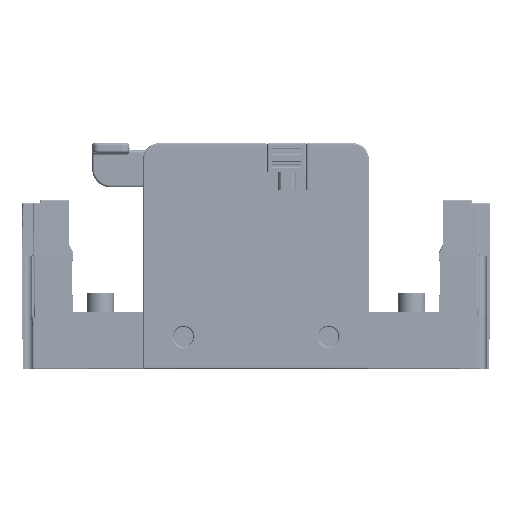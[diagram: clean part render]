
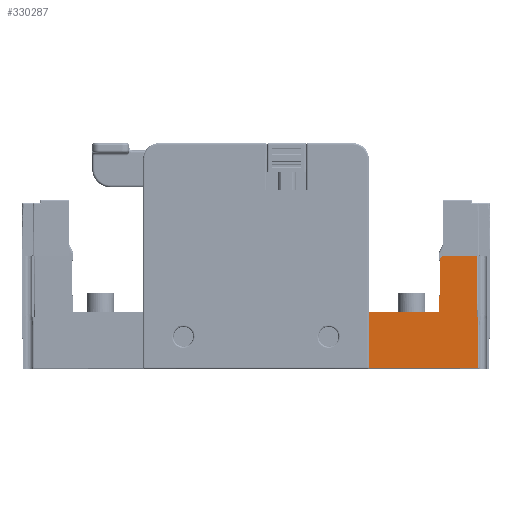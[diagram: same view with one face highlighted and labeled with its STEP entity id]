
A CAD part, left-side view. The second image highlights one B-rep face of the part: STEP entity #330287.
In plain terms, the highlighted planar face has unit normal (-1, 0, -0.009).
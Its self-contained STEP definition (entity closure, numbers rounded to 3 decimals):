
#1474 = CARTESIAN_POINT ( 'NONE',  ( -174.868, -103.471, -18.054 ) ) ;
#1475 = CARTESIAN_POINT ( 'NONE',  ( -174.868, -118.312, -18.054 ) ) ;
#1485 = CARTESIAN_POINT ( 'NONE',  ( -174.868, -88.63, -18.054 ) ) ;
#1487 = CARTESIAN_POINT ( 'NONE',  ( -174.868, -73.788, -18.054 ) ) ;
#1563 = LINE ( 'NONE', #1587, #208128 ) ;
#1575 = CARTESIAN_POINT ( 'NONE',  ( -174.569, -74.741, -52.406 ) ) ;
#1583 = CARTESIAN_POINT ( 'NONE',  ( -174.567, -74.652, -52.558 ) ) ;
#1587 = CARTESIAN_POINT ( 'NONE',  ( -175.174, -74.788, 16.946 ) ) ;
#1591 = DIRECTION ( 'NONE',  ( 0.009, 0., -1. ) ) ;
#1596 = CARTESIAN_POINT ( 'NONE',  ( -174.842, -142.552, -21.054 ) ) ;
#1598 = CARTESIAN_POINT ( 'NONE',  ( -174.57, -74.788, -52.23 ) ) ;
#1600 = CARTESIAN_POINT ( 'NONE',  ( -174.572, -74.788, -52.054 ) ) ;
#1602 = LINE ( 'NONE', #1605, #208130 ) ;
#1605 = CARTESIAN_POINT ( 'NONE',  ( -174.567, -145.788, -52.558 ) ) ;
#1607 = DIRECTION ( 'NONE',  ( 0., 1., 0. ) ) ;
#1612 = LINE ( 'NONE', #1620, #208129 ) ;
#1614 = CARTESIAN_POINT ( 'NONE',  ( -174.751, -142.49, -31.555 ) ) ;
#1616 = CARTESIAN_POINT ( 'NONE',  ( -174.659, -142.431, -42.057 ) ) ;
#1618 = CARTESIAN_POINT ( 'NONE',  ( -174.567, -142.372, -52.558 ) ) ;
#1620 = CARTESIAN_POINT ( 'NONE',  ( -175.174, -145.788, 16.946 ) ) ;
#1624 = DIRECTION ( 'NONE',  ( 0., 1., 0. ) ) ;
#7125 = VECTOR ( 'NONE', #83712, 1000. ) ;
#21188 = CARTESIAN_POINT ( 'NONE',  ( -174.859, -74.788, -19.124 ) ) ;
#21261 = CARTESIAN_POINT ( 'NONE',  ( -174.859, -74.788, -19.122 ) ) ;
#22031 = VERTEX_POINT ( 'NONE', #62101 ) ;
#22112 = VERTEX_POINT ( 'NONE', #62196 ) ;
#22149 = VERTEX_POINT ( 'NONE', #62248 ) ;
#22539 = VERTEX_POINT ( 'NONE', #62694 ) ;
#22542 = VERTEX_POINT ( 'NONE', #62696 ) ;
#22550 = VERTEX_POINT ( 'NONE', #62705 ) ;
#22552 = VERTEX_POINT ( 'NONE', #62708 ) ;
#26384 = VERTEX_POINT ( 'NONE', #212276 ) ;
#26385 = VERTEX_POINT ( 'NONE', #212281 ) ;
#26386 = VERTEX_POINT ( 'NONE', #212288 ) ;
#40977 = ORIENTED_EDGE ( 'NONE', *, *, #93485, .T. ) ;
#40982 = ORIENTED_EDGE ( 'NONE', *, *, #93558, .T. ) ;
#40988 = ORIENTED_EDGE ( 'NONE', *, *, #95155, .T. ) ;
#40994 = ORIENTED_EDGE ( 'NONE', *, *, #325299, .T. ) ;
#41000 = ORIENTED_EDGE ( 'NONE', *, *, #353559, .T. ) ;
#41006 = ORIENTED_EDGE ( 'NONE', *, *, #95211, .T. ) ;
#41009 = ORIENTED_EDGE ( 'NONE', *, *, #95216, .F. ) ;
#41013 = ORIENTED_EDGE ( 'NONE', *, *, #95221, .F. ) ;
#41017 = ORIENTED_EDGE ( 'NONE', *, *, #95228, .F. ) ;
#41024 = ORIENTED_EDGE ( 'NONE', *, *, #325305, .T. ) ;
#41030 = ORIENTED_EDGE ( 'NONE', *, *, #325301, .T. ) ;
#41035 = ORIENTED_EDGE ( 'NONE', *, *, #95234, .T. ) ;
#62101 = CARTESIAN_POINT ( 'NONE',  ( -175.174, -120.423, 16.946 ) ) ;
#62196 = CARTESIAN_POINT ( 'NONE',  ( -175.161, -118.896, 15.419 ) ) ;
#62248 = CARTESIAN_POINT ( 'NONE',  ( -174.868, -118.312, -18.054 ) ) ;
#62694 = CARTESIAN_POINT ( 'NONE',  ( -174.842, -142.552, -21.054 ) ) ;
#62696 = CARTESIAN_POINT ( 'NONE',  ( -175.174, -141.457, 16.946 ) ) ;
#62705 = CARTESIAN_POINT ( 'NONE',  ( -174.842, -141.802, -21.054 ) ) ;
#62708 = CARTESIAN_POINT ( 'NONE',  ( -174.868, -73.788, -18.054 ) ) ;
#70088 = B_SPLINE_CURVE_WITH_KNOTS ( 'NONE', 3,
 ( #1583, #1575, #1598, #1600 ),
 .UNSPECIFIED., .F., .F.,
 ( 4, 4 ),
 ( 0., 1. ),
 .UNSPECIFIED. ) ;
#71594 = B_SPLINE_CURVE_WITH_KNOTS ( 'NONE', 3,
 ( #1475, #1474, #1485, #1487 ),
 .UNSPECIFIED., .F., .F.,
 ( 4, 4 ),
 ( 0., 1. ),
 .UNSPECIFIED. ) ;
#83492 = CARTESIAN_POINT ( 'NONE',  ( -174.868, -73.788, -18.054 ) ) ;
#83495 = CARTESIAN_POINT ( 'NONE',  ( -174.868, -73.854, -18.058 ) ) ;
#83593 = CARTESIAN_POINT ( 'NONE',  ( -174.868, -73.949, -18.073 ) ) ;
#83597 = CARTESIAN_POINT ( 'NONE',  ( -174.868, -74.057, -18.106 ) ) ;
#83600 = CARTESIAN_POINT ( 'NONE',  ( -174.868, -74.103, -18.123 ) ) ;
#83604 = CARTESIAN_POINT ( 'NONE',  ( -174.868, -74.133, -18.135 ) ) ;
#83606 = CARTESIAN_POINT ( 'NONE',  ( -174.868, -74.147, -18.141 ) ) ;
#83608 = CARTESIAN_POINT ( 'NONE',  ( -174.867, -74.291, -18.207 ) ) ;
#83611 = CARTESIAN_POINT ( 'NONE',  ( -174.866, -74.403, -18.288 ) ) ;
#83614 = CARTESIAN_POINT ( 'NONE',  ( -174.865, -74.547, -18.442 ) ) ;
#83615 = CARTESIAN_POINT ( 'NONE',  ( -174.864, -74.611, -18.525 ) ) ;
#83618 = CARTESIAN_POINT ( 'NONE',  ( -174.863, -74.67, -18.63 ) ) ;
#83620 = CARTESIAN_POINT ( 'NONE',  ( -174.863, -74.692, -18.678 ) ) ;
#83623 = CARTESIAN_POINT ( 'NONE',  ( -174.863, -74.706, -18.71 ) ) ;
#83625 = CARTESIAN_POINT ( 'NONE',  ( -174.863, -74.713, -18.728 ) ) ;
#83628 = CARTESIAN_POINT ( 'NONE',  ( -174.861, -74.765, -18.865 ) ) ;
#83631 = CARTESIAN_POINT ( 'NONE',  ( -174.86, -74.788, -18.991 ) ) ;
#83633 = CARTESIAN_POINT ( 'NONE',  ( -174.859, -74.788, -19.122 ) ) ;
#83638 = CARTESIAN_POINT ( 'NONE',  ( -174.948, -141.687, -8.913 ) ) ;
#83641 = CARTESIAN_POINT ( 'NONE',  ( -174.842, -141.802, -21.054 ) ) ;
#83659 = CARTESIAN_POINT ( 'NONE',  ( -175.059, -141.572, 3.754 ) ) ;
#83663 = CARTESIAN_POINT ( 'NONE',  ( -175.174, -141.457, 16.946 ) ) ;
#83701 = LINE ( 'NONE', #83708, #7125 ) ;
#83708 = CARTESIAN_POINT ( 'NONE',  ( -174.842, -145.788, -21.054 ) ) ;
#83712 = DIRECTION ( 'NONE',  ( 0., 1., 0. ) ) ;
#87831 = PLANE ( 'NONE',  #292762 ) ;
#87924 = FACE_OUTER_BOUND ( 'NONE', #168268, .T. ) ;
#87993 = CARTESIAN_POINT ( 'NONE',  ( -175.174, -145.788, 16.946 ) ) ;
#87997 = DIRECTION ( 'NONE',  ( -1., 0., -0.009 ) ) ;
#88001 = DIRECTION ( 'NONE',  ( -0.009, 0., 1. ) ) ;
#93485 = EDGE_CURVE ( 'NONE', #22031, #22112, #188345, .T. ) ;
#93558 = EDGE_CURVE ( 'NONE', #22112, #22149, #188446, .T. ) ;
#95155 = EDGE_CURVE ( 'NONE', #22149, #22552, #71594, .T. ) ;
#95211 = EDGE_CURVE ( 'NONE', #96730, #26385, #1563, .T. ) ;
#95216 = EDGE_CURVE ( 'NONE', #26386, #26385, #70088, .T. ) ;
#95221 = EDGE_CURVE ( 'NONE', #26384, #26386, #1602, .T. ) ;
#95228 = EDGE_CURVE ( 'NONE', #22539, #26384, #138685, .T. ) ;
#95234 = EDGE_CURVE ( 'NONE', #22542, #22031, #1612, .T. ) ;
#96730 = VERTEX_POINT ( 'NONE', #21188 ) ;
#96753 = VERTEX_POINT ( 'NONE', #21261 ) ;
#138685 =( BOUNDED_CURVE ( )  B_SPLINE_CURVE ( 3, ( #1596, #1614, #1616, #1618 ),
 .UNSPECIFIED., .F., .T. ) 
 B_SPLINE_CURVE_WITH_KNOTS ( ( 4, 4 ),
 ( 0., 1. ),
 .UNSPECIFIED. ) 
 CURVE ( )  GEOMETRIC_REPRESENTATION_ITEM ( )  RATIONAL_B_SPLINE_CURVE ( ( 1., 1., 1., 1. ) ) 
 REPRESENTATION_ITEM ( '' )  );
#143371 = LINE ( 'NONE', #143375, #257310 ) ;
#143375 = CARTESIAN_POINT ( 'NONE',  ( -175.174, -74.788, 16.946 ) ) ;
#143378 = DIRECTION ( 'NONE',  ( 0.009, 0., -1. ) ) ;
#168268 = EDGE_LOOP ( 'NONE', ( #40977, #40982, #40988, #40994, #41000, #41006, #41009, #41013, #41017, #41024, #41030, #41035 ) ) ;
#175022 = B_SPLINE_CURVE_WITH_KNOTS ( 'NONE', 3,
 ( #83641, #83638, #83659, #83663 ),
 .UNSPECIFIED., .F., .F.,
 ( 4, 4 ),
 ( 0., 1. ),
 .UNSPECIFIED. ) ;
#175391 = B_SPLINE_CURVE_WITH_KNOTS ( 'NONE', 3,
 ( #83492, #83495, #83593, #83597, #83600, #83604, #83606, #83608, #83611, #83614, #83615, #83618, #83620, #83623, #83625, #83628, #83631, #83633 ),
 .UNSPECIFIED., .F., .F.,
 ( 4, 1, 1, 2, 2, 2, 1, 1, 2, 2, 4 ),
 ( 0., 0.125, 0.187, 0.219, 0.25, 0.5, 0.625, 0.688, 0.719, 0.75, 1. ),
 .UNSPECIFIED. ) ;
#188345 = LINE ( 'NONE', #188363, #207698 ) ;
#188363 = CARTESIAN_POINT ( 'NONE',  ( -175.174, -120.423, 16.946 ) ) ;
#188368 = DIRECTION ( 'NONE',  ( 0.006, 0.707, -0.707 ) ) ;
#188446 = LINE ( 'NONE', #188454, #207715 ) ;
#188454 = CARTESIAN_POINT ( 'NONE',  ( -175.161, -118.896, 15.419 ) ) ;
#188456 = DIRECTION ( 'NONE',  ( 0.009, 0.017, -1. ) ) ;
#207698 = VECTOR ( 'NONE', #188368, 1000. ) ;
#207715 = VECTOR ( 'NONE', #188456, 1000. ) ;
#208128 = VECTOR ( 'NONE', #1591, 1000. ) ;
#208129 = VECTOR ( 'NONE', #1624, 1000. ) ;
#208130 = VECTOR ( 'NONE', #1607, 1000. ) ;
#212276 = CARTESIAN_POINT ( 'NONE',  ( -174.567, -142.372, -52.558 ) ) ;
#212281 = CARTESIAN_POINT ( 'NONE',  ( -174.572, -74.788, -52.054 ) ) ;
#212288 = CARTESIAN_POINT ( 'NONE',  ( -174.567, -74.652, -52.558 ) ) ;
#257310 = VECTOR ( 'NONE', #143378, 1000. ) ;
#292762 = AXIS2_PLACEMENT_3D ( 'NONE', #87993, #87997, #88001 ) ;
#325299 = EDGE_CURVE ( 'NONE', #22552, #96753, #175391, .T. ) ;
#325301 = EDGE_CURVE ( 'NONE', #22550, #22542, #175022, .T. ) ;
#325305 = EDGE_CURVE ( 'NONE', #22539, #22550, #83701, .T. ) ;
#330287 = ADVANCED_FACE ( 'NONE', ( #87924 ), #87831, .T. ) ;
#353559 = EDGE_CURVE ( 'NONE', #96753, #96730, #143371, .T. ) ;
